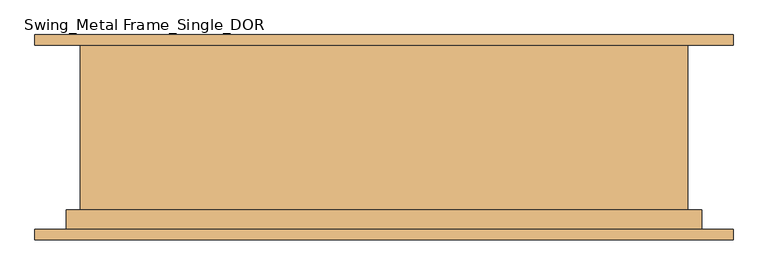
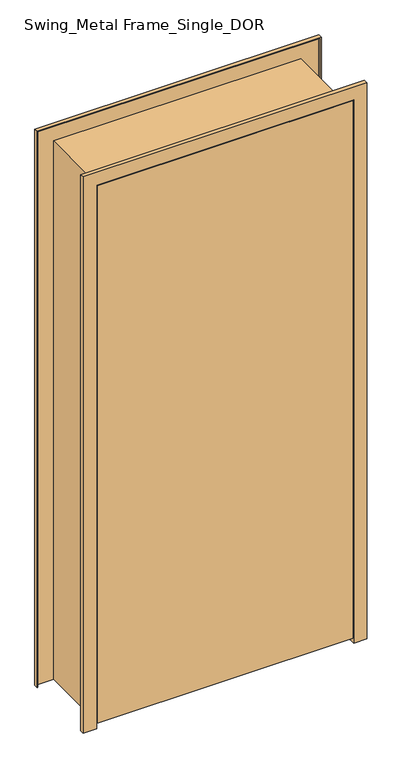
"""IFC4 building model written with IfcOpenShell, lengths in millimetres: door geometry, Swing_Metal Frame_Single_DOR : 2040h x 920 (2110x1020 STUD)."""

from ifc_helpers import new_model, si_unit, frame, origin, place, context, project, spatial, polyline, outline, extrude, faceted_brep, source, transform, mapped, element, save


def swing_metal_frame_single_dor_d95655a8(model_context):
    return source(origin(), model_context, "Body", "SolidModel", [
        extrude(outline(polyline([(460.0, -150.0), (-460.0, -150.0), (-460.0, -110.0), (460.0, -110.0), (460.0, -150.0)])), frame((0.0, 0.0, 20.0), z_axis=(0.0, 0.0, 1.0), x_axis=(1.0, 0.0, 0.0)), (0.0, 0.0, 1.0), 2040.0),
        faceted_brep([(-510.0, 150.0, 0.0), (-442.0, 150.0, 0.0), (-442.0, -108.0, 0.0), (-462.0, -108.0, 0.0), (-462.0, -150.0, 0.0), (-510.0, -150.0, 0.0), (-510.0, -135.0, 0.0), (-508.0, -135.0, 0.0), (-508.0, -148.0, 0.0), (-464.0, -148.0, 0.0), (-464.0, -106.0, 0.0), (-444.0, -106.0, 0.0), (-444.0, 148.0, 0.0), (-508.0, 148.0, 0.0), (-508.0, 135.0, 0.0), (-510.0, 135.0, 0.0), (-510.0, 135.0, 2110.0), (-510.0, 150.0, 2110.0), (-508.0, 135.0, 2108.0), (508.0, 135.0, 2108.0), (508.0, 135.0, 0.0), (510.0, 135.0, 0.0), (510.0, 135.0, 2110.0), (-508.0, 148.0, 2108.0), (-444.0, 148.0, 2044.0), (444.0, 148.0, 2044.0), (444.0, 148.0, 0.0), (508.0, 148.0, 0.0), (508.0, 148.0, 2108.0), (-444.0, -106.0, 2044.0), (-464.0, -106.0, 2064.0), (464.0, -106.0, 2064.0), (464.0, -106.0, 0.0), (444.0, -106.0, 0.0), (444.0, -106.0, 2044.0), (-464.0, -148.0, 2064.0), (-508.0, -148.0, 2108.0), (508.0, -148.0, 2108.0), (508.0, -148.0, 0.0), (464.0, -148.0, 0.0), (464.0, -148.0, 2064.0), (-508.0, -135.0, 2108.0), (-510.0, -135.0, 2110.0), (510.0, -135.0, 2110.0), (510.0, -135.0, 0.0), (508.0, -135.0, 0.0), (508.0, -135.0, 2108.0), (-510.0, -150.0, 2110.0), (-462.0, -150.0, 2062.0), (462.0, -150.0, 2062.0), (462.0, -150.0, 0.0), (510.0, -150.0, 0.0), (510.0, -150.0, 2110.0), (-462.0, -108.0, 2062.0), (-442.0, -108.0, 2042.0), (442.0, -108.0, 2042.0), (442.0, -108.0, 0.0), (462.0, -108.0, 0.0), (462.0, -108.0, 2062.0), (-442.0, 150.0, 2042.0), (510.0, 150.0, 2110.0), (510.0, 150.0, 0.0), (442.0, 150.0, 0.0), (442.0, 150.0, 2042.0)], [[[0, 1, 2, 3, 4, 5, 6, 7, 8, 9, 10, 11, 12, 13, 14, 15]], [[15, 16, 17, 0]], [[14, 18, 19, 20, 21, 22, 16, 15]], [[13, 23, 18, 14]], [[12, 24, 25, 26, 27, 28, 23, 13]], [[11, 29, 24, 12]], [[10, 30, 31, 32, 33, 34, 29, 11]], [[9, 35, 30, 10]], [[8, 36, 37, 38, 39, 40, 35, 9]], [[7, 41, 36, 8]], [[6, 42, 43, 44, 45, 46, 41, 7]], [[5, 47, 42, 6]], [[4, 48, 49, 50, 51, 52, 47, 5]], [[3, 53, 48, 4]], [[2, 54, 55, 56, 57, 58, 53, 3]], [[1, 59, 54, 2]], [[0, 17, 60, 61, 62, 63, 59, 1]], [[22, 21, 61, 60]], [[61, 21, 20, 27, 26, 33, 32, 39, 38, 45, 44, 51, 50, 57, 56, 62]], [[28, 27, 20, 19]], [[34, 33, 26, 25]], [[40, 39, 32, 31]], [[46, 45, 38, 37]], [[52, 51, 44, 43]], [[58, 57, 50, 49]], [[63, 62, 56, 55]], [[16, 22, 60, 17]], [[23, 28, 19, 18]], [[29, 34, 25, 24]], [[35, 40, 31, 30]], [[41, 46, 37, 36]], [[47, 52, 43, 42]], [[53, 58, 49, 48]], [[59, 63, 55, 54]]]),
    ])


if __name__ == "__main__":
    model = new_model("IFC4")
    model_context = context("Model", 3, world=origin())
    ifc_project = project(units=[si_unit("LENGTHUNIT", "METRE", prefix="MILLI")], contexts=[model_context])
    site = spatial("IfcSite", under=ifc_project)
    building = spatial("IfcBuilding", under=site)
    placement = place(None, origin())
    swing_metal_frame_single_dor_shape = swing_metal_frame_single_dor_d95655a8(model_context)
    element("IfcDoor", 1, ObjectType="Swing_Metal Frame_Single_DOR : 2040h x 920 (2110x1020 STUD)", at=placement, inside=building, context=model_context, shape_type="MappedRepresentation", body=[
        mapped(swing_metal_frame_single_dor_shape, transform((0.0, 0.0, 0.0), x_axis=(1.0, 0.0, 0.0), y_axis=(0.0, 1.0, 0.0), z_axis=(0.0, 0.0, 1.0))),
    ])
    save(model, "model.ifc")
